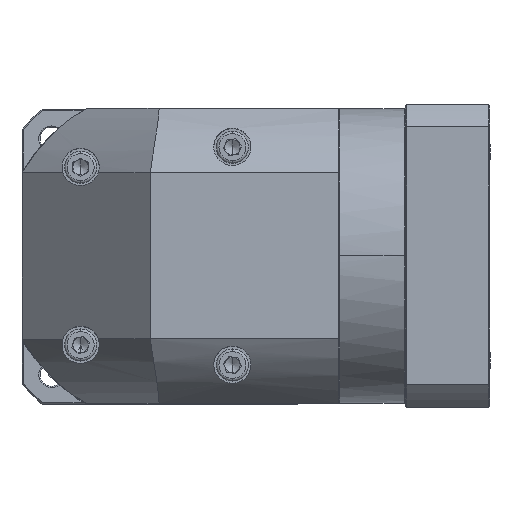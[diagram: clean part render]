
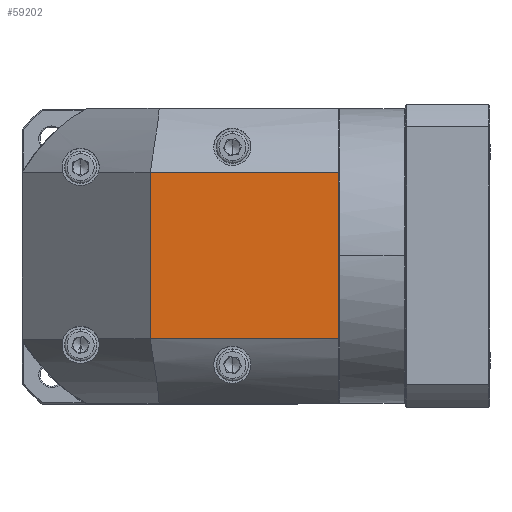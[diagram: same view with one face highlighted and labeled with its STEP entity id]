
A CAD part, top view. The second image highlights one B-rep face of the part: STEP entity #59202.
In plain terms, the highlighted planar face has unit normal (0, 0, 1).
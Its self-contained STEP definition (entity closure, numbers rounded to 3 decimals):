
#786 = EDGE_CURVE ( 'NONE', #75389, #26942, #20032, .T. ) ;
#10683 = ORIENTED_EDGE ( 'NONE', *, *, #35437, .F. ) ;
#14233 = FACE_OUTER_BOUND ( 'NONE', #39578, .T. ) ;
#20032 = LINE ( 'NONE', #24678, #111521 ) ;
#21740 = VECTOR ( 'NONE', #86494, 1000. ) ;
#22712 = DIRECTION ( 'NONE',  ( 0., -1., 0. ) ) ;
#24678 = CARTESIAN_POINT ( 'NONE',  ( 40.715, 127.334, 73.117 ) ) ;
#25677 = EDGE_CURVE ( 'NONE', #46015, #75389, #66835, .T. ) ;
#26942 = VERTEX_POINT ( 'NONE', #132411 ) ;
#32879 = DIRECTION ( 'NONE',  ( 0., 0., -1. ) ) ;
#33538 = VECTOR ( 'NONE', #64861, 1000. ) ;
#35437 = EDGE_CURVE ( 'NONE', #38835, #46015, #81564, .T. ) ;
#35453 = CARTESIAN_POINT ( 'NONE',  ( 114.115, 102.234, 73.117 ) ) ;
#38835 = VERTEX_POINT ( 'NONE', #35453 ) ;
#39578 = EDGE_LOOP ( 'NONE', ( #129604, #53042, #123422, #10683 ) ) ;
#46015 = VERTEX_POINT ( 'NONE', #136011 ) ;
#52487 = CARTESIAN_POINT ( 'NONE',  ( 40.715, 37.434, 73.117 ) ) ;
#52842 = CARTESIAN_POINT ( 'NONE',  ( -9.285, 37.434, 73.117 ) ) ;
#53042 = ORIENTED_EDGE ( 'NONE', *, *, #786, .F. ) ;
#53860 = CARTESIAN_POINT ( 'NONE',  ( 48.215, 69.834, 73.117 ) ) ;
#58212 = EDGE_CURVE ( 'NONE', #26942, #38835, #76101, .T. ) ;
#59202 = ADVANCED_FACE ( 'NONE', ( #14233 ), #107292, .F. ) ;
#64861 = DIRECTION ( 'NONE',  ( -1., 0., 0. ) ) ;
#66835 = LINE ( 'NONE', #52842, #33538 ) ;
#69512 = VECTOR ( 'NONE', #75945, 1000. ) ;
#75389 = VERTEX_POINT ( 'NONE', #52487 ) ;
#75945 = DIRECTION ( 'NONE',  ( 1., 0., 0. ) ) ;
#76101 = LINE ( 'NONE', #129948, #69512 ) ;
#81564 = LINE ( 'NONE', #109265, #21740 ) ;
#86494 = DIRECTION ( 'NONE',  ( 0., -1., 0. ) ) ;
#107292 = PLANE ( 'NONE',  #130879 ) ;
#109265 = CARTESIAN_POINT ( 'NONE',  ( 114.115, 127.334, 73.117 ) ) ;
#109735 = DIRECTION ( 'NONE',  ( 0., 1., 0. ) ) ;
#111521 = VECTOR ( 'NONE', #109735, 1000. ) ;
#123422 = ORIENTED_EDGE ( 'NONE', *, *, #25677, .F. ) ;
#129604 = ORIENTED_EDGE ( 'NONE', *, *, #58212, .F. ) ;
#129948 = CARTESIAN_POINT ( 'NONE',  ( -9.285, 102.234, 73.117 ) ) ;
#130879 = AXIS2_PLACEMENT_3D ( 'NONE', #53860, #32879, #22712 ) ;
#132411 = CARTESIAN_POINT ( 'NONE',  ( 40.715, 102.234, 73.117 ) ) ;
#136011 = CARTESIAN_POINT ( 'NONE',  ( 114.115, 37.434, 73.117 ) ) ;
